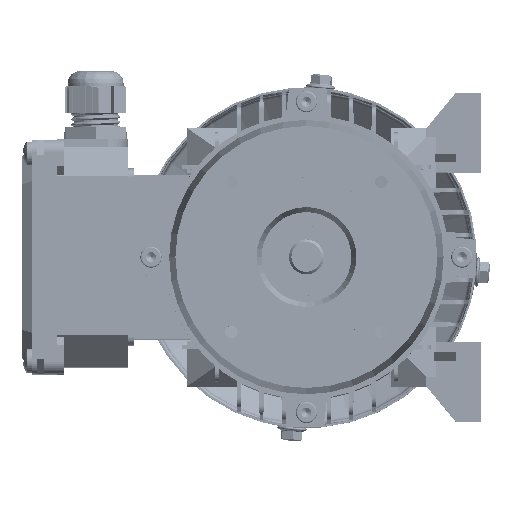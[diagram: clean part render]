
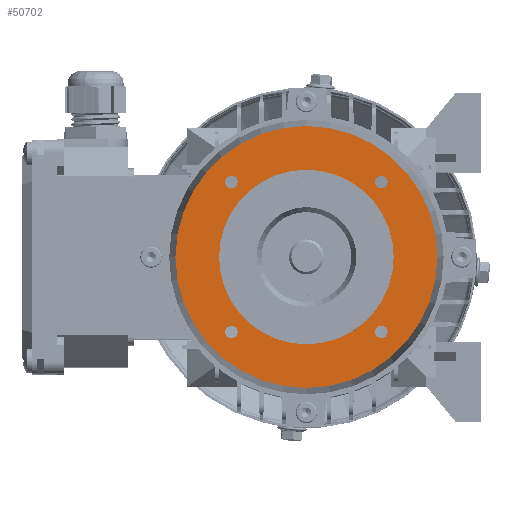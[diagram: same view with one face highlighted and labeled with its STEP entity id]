
A CAD part, top view. The second image highlights one B-rep face of the part: STEP entity #50702.
In plain terms, the highlighted planar face has unit normal (0, 0, 1).
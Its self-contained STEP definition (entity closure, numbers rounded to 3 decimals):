
#1514 = EDGE_LOOP ( 'NONE', ( #72833, #4318 ) ) ;
#4318 = ORIENTED_EDGE ( 'NONE', *, *, #71702, .F. ) ;
#4758 = VERTEX_POINT ( 'NONE', #88537 ) ;
#6082 = CIRCLE ( 'NONE', #92591, 52.5 ) ;
#8107 = VERTEX_POINT ( 'NONE', #108409 ) ;
#9282 = CARTESIAN_POINT ( 'NONE',  ( -35., 0., -2.5 ) ) ;
#9296 = DIRECTION ( 'NONE',  ( 0., 0., 1. ) ) ;
#10660 = EDGE_CURVE ( 'NONE', #72313, #80701, #90979, .T. ) ;
#16612 = CARTESIAN_POINT ( 'NONE',  ( -32.552, 30.052, -2.5 ) ) ;
#17324 = ORIENTED_EDGE ( 'NONE', *, *, #54246, .F. ) ;
#17915 = DIRECTION ( 'NONE',  ( 0., 0., 1. ) ) ;
#20258 = FACE_BOUND ( 'NONE', #62963, .T. ) ;
#21009 = AXIS2_PLACEMENT_3D ( 'NONE', #29885, #101860, #40279 ) ;
#23213 = EDGE_CURVE ( 'NONE', #30741, #43126, #118375, .T. ) ;
#23465 = FACE_BOUND ( 'NONE', #50927, .T. ) ;
#24249 = ORIENTED_EDGE ( 'NONE', *, *, #10660, .F. ) ;
#24884 = DIRECTION ( 'NONE',  ( 0., 0., 1. ) ) ;
#25389 = AXIS2_PLACEMENT_3D ( 'NONE', #52805, #124776, #63093 ) ;
#25802 = AXIS2_PLACEMENT_3D ( 'NONE', #115848, #54232, #126218 ) ;
#27906 = CARTESIAN_POINT ( 'NONE',  ( 30.052, -30.052, -2.5 ) ) ;
#28133 = PLANE ( 'NONE',  #98303 ) ;
#28398 = AXIS2_PLACEMENT_3D ( 'NONE', #109733, #48112, #120073 ) ;
#28692 = ORIENTED_EDGE ( 'NONE', *, *, #28960, .T. ) ;
#28960 = EDGE_CURVE ( 'NONE', #96425, #119921, #73897, .T. ) ;
#29611 = EDGE_LOOP ( 'NONE', ( #17324, #123452 ) ) ;
#29885 = CARTESIAN_POINT ( 'NONE',  ( 0., 0., -2.5 ) ) ;
#30741 = VERTEX_POINT ( 'NONE', #16612 ) ;
#33641 = DIRECTION ( 'NONE',  ( 0., 0., 1. ) ) ;
#34012 = EDGE_CURVE ( 'NONE', #126685, #133198, #57017, .T. ) ;
#34227 = CARTESIAN_POINT ( 'NONE',  ( 0., 0., -2.5 ) ) ;
#36667 = CIRCLE ( 'NONE', #75238, 2.5 ) ;
#38109 = ORIENTED_EDGE ( 'NONE', *, *, #64615, .F. ) ;
#38265 = DIRECTION ( 'NONE',  ( 1., 0., 0. ) ) ;
#38939 = CARTESIAN_POINT ( 'NONE',  ( 35., 0., -2.5 ) ) ;
#40279 = DIRECTION ( 'NONE',  ( 1., 0., 0. ) ) ;
#41392 = CARTESIAN_POINT ( 'NONE',  ( -27.552, 30.052, -2.5 ) ) ;
#43103 = CARTESIAN_POINT ( 'NONE',  ( -30.052, 30.052, -2.5 ) ) ;
#43126 = VERTEX_POINT ( 'NONE', #41392 ) ;
#43792 = AXIS2_PLACEMENT_3D ( 'NONE', #27906, #99862, #38265 ) ;
#44617 = DIRECTION ( 'NONE',  ( 1., 0., 0. ) ) ;
#44874 = CIRCLE ( 'NONE', #112380, 2.5 ) ;
#45995 = CARTESIAN_POINT ( 'NONE',  ( 52.5, 0., -2.5 ) ) ;
#46411 = EDGE_LOOP ( 'NONE', ( #82693, #38109 ) ) ;
#46939 = AXIS2_PLACEMENT_3D ( 'NONE', #95225, #33641, #105610 ) ;
#48112 = DIRECTION ( 'NONE',  ( 0., 0., 1. ) ) ;
#48868 = ORIENTED_EDGE ( 'NONE', *, *, #107530, .F. ) ;
#49297 = DIRECTION ( 'NONE',  ( 1., 0., 0. ) ) ;
#49745 = CARTESIAN_POINT ( 'NONE',  ( -32.552, -30.052, -2.5 ) ) ;
#50040 = EDGE_CURVE ( 'NONE', #80701, #72313, #109003, .T. ) ;
#50702 = ADVANCED_FACE ( 'NONE', ( #23465, #102414, #133031, #20258, #126590, #99149 ), #28133, .T. ) ;
#50927 = EDGE_LOOP ( 'NONE', ( #24249, #72283 ) ) ;
#52805 = CARTESIAN_POINT ( 'NONE',  ( 0., 0., -2.5 ) ) ;
#53447 = DIRECTION ( 'NONE',  ( 1., 0., 0. ) ) ;
#53816 = CARTESIAN_POINT ( 'NONE',  ( 27.552, -30.052, -2.5 ) ) ;
#54232 = DIRECTION ( 'NONE',  ( 0., 0., 1. ) ) ;
#54246 = EDGE_CURVE ( 'NONE', #43126, #30741, #118952, .T. ) ;
#54840 = EDGE_CURVE ( 'NONE', #119921, #96425, #6082, .T. ) ;
#55655 = VERTEX_POINT ( 'NONE', #49745 ) ;
#57017 = CIRCLE ( 'NONE', #25389, 35. ) ;
#60907 = DIRECTION ( 'NONE',  ( 0., 0., 1. ) ) ;
#61670 = CARTESIAN_POINT ( 'NONE',  ( 30.052, 30.052, -2.5 ) ) ;
#62963 = EDGE_LOOP ( 'NONE', ( #72726, #48868 ) ) ;
#63093 = DIRECTION ( 'NONE',  ( 1., 0., 0. ) ) ;
#64615 = EDGE_CURVE ( 'NONE', #55655, #8107, #84004, .T. ) ;
#68989 = AXIS2_PLACEMENT_3D ( 'NONE', #79553, #17915, #89884 ) ;
#70985 = CARTESIAN_POINT ( 'NONE',  ( -30.052, -30.052, -2.5 ) ) ;
#71702 = EDGE_CURVE ( 'NONE', #133198, #126685, #81012, .T. ) ;
#72050 = DIRECTION ( 'NONE',  ( 1., 0., 0. ) ) ;
#72283 = ORIENTED_EDGE ( 'NONE', *, *, #50040, .F. ) ;
#72313 = VERTEX_POINT ( 'NONE', #126322 ) ;
#72726 = ORIENTED_EDGE ( 'NONE', *, *, #114307, .F. ) ;
#72833 = ORIENTED_EDGE ( 'NONE', *, *, #34012, .F. ) ;
#73897 = CIRCLE ( 'NONE', #21009, 52.5 ) ;
#75238 = AXIS2_PLACEMENT_3D ( 'NONE', #70985, #9296, #81313 ) ;
#77452 = ORIENTED_EDGE ( 'NONE', *, *, #54840, .T. ) ;
#79553 = CARTESIAN_POINT ( 'NONE',  ( 30.052, -30.052, -2.5 ) ) ;
#79830 = AXIS2_PLACEMENT_3D ( 'NONE', #34227, #106224, #44617 ) ;
#80701 = VERTEX_POINT ( 'NONE', #53816 ) ;
#81012 = CIRCLE ( 'NONE', #79830, 35. ) ;
#81313 = DIRECTION ( 'NONE',  ( 1., 0., 0. ) ) ;
#82693 = ORIENTED_EDGE ( 'NONE', *, *, #119031, .F. ) ;
#83949 = AXIS2_PLACEMENT_3D ( 'NONE', #43103, #115055, #53447 ) ;
#84004 = CIRCLE ( 'NONE', #46939, 2.5 ) ;
#86571 = CARTESIAN_POINT ( 'NONE',  ( 0., 0., -2.5 ) ) ;
#88537 = CARTESIAN_POINT ( 'NONE',  ( 32.552, 30.052, -2.5 ) ) ;
#89884 = DIRECTION ( 'NONE',  ( 1., 0., 0. ) ) ;
#90428 = VERTEX_POINT ( 'NONE', #96945 ) ;
#90979 = CIRCLE ( 'NONE', #43792, 2.5 ) ;
#92591 = AXIS2_PLACEMENT_3D ( 'NONE', #86571, #24884, #96864 ) ;
#95225 = CARTESIAN_POINT ( 'NONE',  ( -30.052, -30.052, -2.5 ) ) ;
#96425 = VERTEX_POINT ( 'NONE', #104077 ) ;
#96864 = DIRECTION ( 'NONE',  ( 1., 0., 0. ) ) ;
#96945 = CARTESIAN_POINT ( 'NONE',  ( 27.552, 30.052, -2.5 ) ) ;
#98303 = AXIS2_PLACEMENT_3D ( 'NONE', #38939, #110899, #49297 ) ;
#99149 = FACE_BOUND ( 'NONE', #1514, .T. ) ;
#99862 = DIRECTION ( 'NONE',  ( 0., 0., 1. ) ) ;
#100919 = CIRCLE ( 'NONE', #28398, 2.5 ) ;
#101860 = DIRECTION ( 'NONE',  ( 0., 0., 1. ) ) ;
#102414 = FACE_BOUND ( 'NONE', #46411, .T. ) ;
#104077 = CARTESIAN_POINT ( 'NONE',  ( -52.5, 0., -2.5 ) ) ;
#105610 = DIRECTION ( 'NONE',  ( 1., 0., 0. ) ) ;
#106224 = DIRECTION ( 'NONE',  ( 0., 0., 1. ) ) ;
#107530 = EDGE_CURVE ( 'NONE', #90428, #4758, #44874, .T. ) ;
#108409 = CARTESIAN_POINT ( 'NONE',  ( -27.552, -30.052, -2.5 ) ) ;
#109003 = CIRCLE ( 'NONE', #68989, 2.5 ) ;
#109733 = CARTESIAN_POINT ( 'NONE',  ( 30.052, 30.052, -2.5 ) ) ;
#110899 = DIRECTION ( 'NONE',  ( 0., 0., 1. ) ) ;
#111814 = EDGE_LOOP ( 'NONE', ( #77452, #28692 ) ) ;
#112380 = AXIS2_PLACEMENT_3D ( 'NONE', #61670, #60907, #72050 ) ;
#113658 = CARTESIAN_POINT ( 'NONE',  ( 35., 0., -2.5 ) ) ;
#114307 = EDGE_CURVE ( 'NONE', #4758, #90428, #100919, .T. ) ;
#115055 = DIRECTION ( 'NONE',  ( 0., 0., 1. ) ) ;
#115848 = CARTESIAN_POINT ( 'NONE',  ( -30.052, 30.052, -2.5 ) ) ;
#118375 = CIRCLE ( 'NONE', #25802, 2.5 ) ;
#118952 = CIRCLE ( 'NONE', #83949, 2.5 ) ;
#119031 = EDGE_CURVE ( 'NONE', #8107, #55655, #36667, .T. ) ;
#119921 = VERTEX_POINT ( 'NONE', #45995 ) ;
#120073 = DIRECTION ( 'NONE',  ( 1., 0., 0. ) ) ;
#123452 = ORIENTED_EDGE ( 'NONE', *, *, #23213, .F. ) ;
#124776 = DIRECTION ( 'NONE',  ( 0., 0., 1. ) ) ;
#126218 = DIRECTION ( 'NONE',  ( 1., 0., 0. ) ) ;
#126322 = CARTESIAN_POINT ( 'NONE',  ( 32.552, -30.052, -2.5 ) ) ;
#126590 = FACE_OUTER_BOUND ( 'NONE', #111814, .T. ) ;
#126685 = VERTEX_POINT ( 'NONE', #113658 ) ;
#133031 = FACE_BOUND ( 'NONE', #29611, .T. ) ;
#133198 = VERTEX_POINT ( 'NONE', #9282 ) ;
